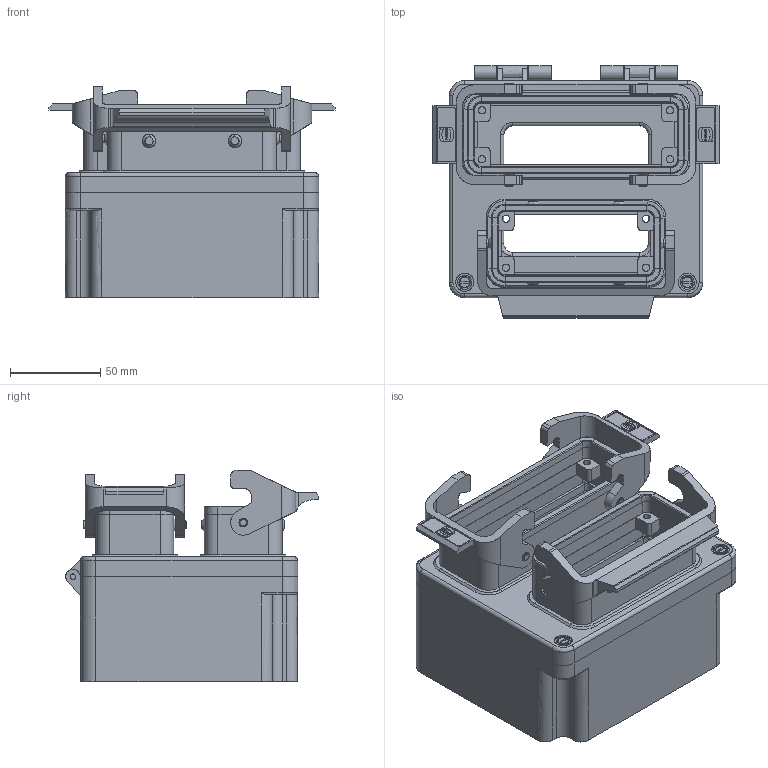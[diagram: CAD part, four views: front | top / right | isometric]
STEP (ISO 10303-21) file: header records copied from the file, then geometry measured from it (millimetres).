
FILE_DESCRIPTION( ( 'STEP AP214' ), '1' );
FILE_NAME( 'C:/Dokumente und Einstellungen/Administrator/Desktop/47 Kabelboxen/G3/19/gr_3_24e_16e-ab.stp', '2006-09-10T19:18:28', ( ' ' ), ( ' ' ), 'XStep 1.0', 'VISICAD', ' ' );
FILE_SCHEMA( ( 'automotive_design' ) );
Length unit declared in the file: millimetre
Products named in the file (1447): 1; 2; 3; 4; 5; 6; 7; 8; 9; 10; 11; 12; 13; 14; 15; 16; 17; 18; 19; 20; 21; 22; 23; 24; 25; 26; 27; 28; 29; 30; 31; 32; 33; 34; 35; 36; 37; 38; 39; 40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
Bounding box: 158.1 x 139.68 x 116.7 mm (x, y, z)
Surface area: 187496.9 mm2 (no closed solid volume)
Topology: 0 solids, 1457 shells, 1457 faces, 7344 edges, 7336 vertices
Faces by surface type: plane 801, bspline 418, revolution 132, cylinder 106
Full cylindrical faces by diameter (mm): 0.76 x2, 0.84 x2, 5.1 x4
Entity records: 153781 total; most frequent: CARTESIAN_POINT 66685, DIRECTION 10529, ORIENTED_EDGE 7336, EDGE_CURVE 7336, VERTEX_POINT 7336, LINE 4603, VECTOR 4603, AXIS2_PLACEMENT_3D 2897
